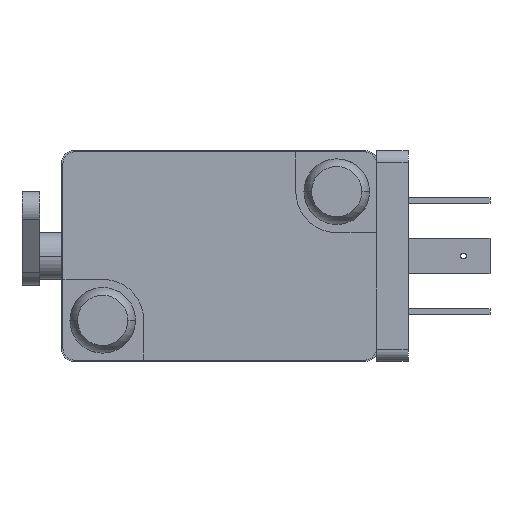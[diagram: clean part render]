
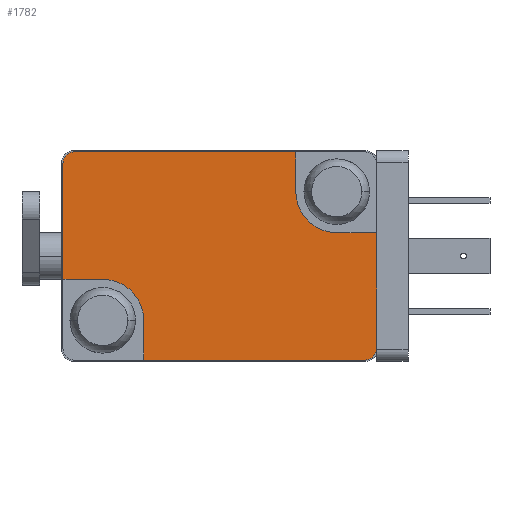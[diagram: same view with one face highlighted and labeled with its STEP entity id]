
A CAD part, left-side view. The second image highlights one B-rep face of the part: STEP entity #1782.
In plain terms, the highlighted planar face has unit normal (-1, 0, 0).
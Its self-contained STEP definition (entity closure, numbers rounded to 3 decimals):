
#56 = CARTESIAN_POINT ( 'NONE',  ( -51.5, 38., -21. ) ) ;
#86 = AXIS2_PLACEMENT_3D ( 'NONE', #1937, #2416, #3756 ) ;
#100 = VECTOR ( 'NONE', #4903, 1000. ) ;
#109 = CARTESIAN_POINT ( 'NONE',  ( -51.5, 38., -21. ) ) ;
#133 = EDGE_CURVE ( 'NONE', #1468, #3009, #282, .T. ) ;
#244 = CARTESIAN_POINT ( 'NONE',  ( -51.5, 34.5, -27.9 ) ) ;
#254 = CIRCLE ( 'NONE', #827, 1. ) ;
#282 = LINE ( 'NONE', #2499, #5292 ) ;
#507 = ORIENTED_EDGE ( 'NONE', *, *, #133, .T. ) ;
#532 = ORIENTED_EDGE ( 'NONE', *, *, #620, .F. ) ;
#533 = FACE_OUTER_BOUND ( 'NONE', #5463, .T. ) ;
#620 = EDGE_CURVE ( 'NONE', #1977, #3009, #2131, .T. ) ;
#715 = CARTESIAN_POINT ( 'NONE',  ( -51.5, 41.4, -21. ) ) ;
#744 = DIRECTION ( 'NONE',  ( -1., 0., 0. ) ) ;
#827 = AXIS2_PLACEMENT_3D ( 'NONE', #2145, #744, #1697 ) ;
#856 = VECTOR ( 'NONE', #5576, 1000. ) ;
#995 = CARTESIAN_POINT ( 'NONE',  ( -51.5, 40.4, -27.9 ) ) ;
#1040 = ORIENTED_EDGE ( 'NONE', *, *, #5035, .F. ) ;
#1207 = DIRECTION ( 'NONE',  ( 0., 0., -1. ) ) ;
#1301 = CIRCLE ( 'NONE', #4636, 3.5 ) ;
#1417 = LINE ( 'NONE', #4674, #1920 ) ;
#1429 = CARTESIAN_POINT ( 'NONE',  ( -51.5, 40.4, -10.1 ) ) ;
#1468 = VERTEX_POINT ( 'NONE', #3854 ) ;
#1626 = CIRCLE ( 'NONE', #3521, 3.5 ) ;
#1696 = CARTESIAN_POINT ( 'NONE',  ( -51.5, 14.6, -17. ) ) ;
#1697 = DIRECTION ( 'NONE',  ( 0., 0., 1. ) ) ;
#1772 = CARTESIAN_POINT ( 'NONE',  ( -51.5, 18., -13.5 ) ) ;
#1782 = ADVANCED_FACE ( 'NONE', ( #533 ), #5555, .T. ) ;
#1793 = CARTESIAN_POINT ( 'NONE',  ( -51.5, 38., -24.5 ) ) ;
#1884 = ORIENTED_EDGE ( 'NONE', *, *, #2539, .F. ) ;
#1920 = VECTOR ( 'NONE', #4610, 1000. ) ;
#1924 = DIRECTION ( 'NONE',  ( 0., -1., 0. ) ) ;
#1937 = CARTESIAN_POINT ( 'NONE',  ( -51.5, 40.4, -26.9 ) ) ;
#1939 = DIRECTION ( 'NONE',  ( 0., 0., 1. ) ) ;
#1977 = VERTEX_POINT ( 'NONE', #3544 ) ;
#2026 = CARTESIAN_POINT ( 'NONE',  ( -51.5, 41.4, -11.1 ) ) ;
#2048 = DIRECTION ( 'NONE',  ( 0., 0., 1. ) ) ;
#2131 = LINE ( 'NONE', #4933, #100 ) ;
#2145 = CARTESIAN_POINT ( 'NONE',  ( -51.5, 15.6, -26.9 ) ) ;
#2151 = CARTESIAN_POINT ( 'NONE',  ( -51.5, 15.6, -10.1 ) ) ;
#2188 = CIRCLE ( 'NONE', #5523, 1. ) ;
#2197 = VECTOR ( 'NONE', #1207, 1000. ) ;
#2259 = LINE ( 'NONE', #2674, #5401 ) ;
#2307 = ORIENTED_EDGE ( 'NONE', *, *, #2452, .T. ) ;
#2378 = LINE ( 'NONE', #109, #856 ) ;
#2416 = DIRECTION ( 'NONE',  ( -1., 0., 0. ) ) ;
#2452 = EDGE_CURVE ( 'NONE', #5393, #3954, #4130, .T. ) ;
#2499 = CARTESIAN_POINT ( 'NONE',  ( -51.5, 14.6, -26.9 ) ) ;
#2539 = EDGE_CURVE ( 'NONE', #3471, #3459, #1417, .T. ) ;
#2631 = CARTESIAN_POINT ( 'NONE',  ( -51.5, 21.5, -10.1 ) ) ;
#2674 = CARTESIAN_POINT ( 'NONE',  ( -51.5, 34.5, -28. ) ) ;
#2684 = CARTESIAN_POINT ( 'NONE',  ( -51.5, 15.6, -27.9 ) ) ;
#2825 = CARTESIAN_POINT ( 'NONE',  ( -51.5, 40.4, -11.1 ) ) ;
#2983 = VERTEX_POINT ( 'NONE', #715 ) ;
#3009 = VERTEX_POINT ( 'NONE', #1696 ) ;
#3052 = CARTESIAN_POINT ( 'NONE',  ( -51.5, 21.5, -13.5 ) ) ;
#3091 = ORIENTED_EDGE ( 'NONE', *, *, #5809, .T. ) ;
#3260 = VERTEX_POINT ( 'NONE', #4250 ) ;
#3459 = VERTEX_POINT ( 'NONE', #3052 ) ;
#3471 = VERTEX_POINT ( 'NONE', #2631 ) ;
#3521 = AXIS2_PLACEMENT_3D ( 'NONE', #1772, #5412, #4969 ) ;
#3544 = CARTESIAN_POINT ( 'NONE',  ( -51.5, 18., -17. ) ) ;
#3590 = EDGE_CURVE ( 'NONE', #3260, #5590, #1301, .T. ) ;
#3733 = ORIENTED_EDGE ( 'NONE', *, *, #3590, .F. ) ;
#3756 = DIRECTION ( 'NONE',  ( 0., 0., 1. ) ) ;
#3776 = EDGE_CURVE ( 'NONE', #3471, #3922, #4925, .T. ) ;
#3854 = CARTESIAN_POINT ( 'NONE',  ( -51.5, 14.6, -26.9 ) ) ;
#3885 = ORIENTED_EDGE ( 'NONE', *, *, #5126, .F. ) ;
#3922 = VERTEX_POINT ( 'NONE', #1429 ) ;
#3954 = VERTEX_POINT ( 'NONE', #2684 ) ;
#4059 = VERTEX_POINT ( 'NONE', #2026 ) ;
#4117 = ORIENTED_EDGE ( 'NONE', *, *, #4361, .F. ) ;
#4129 = ORIENTED_EDGE ( 'NONE', *, *, #3776, .T. ) ;
#4130 = LINE ( 'NONE', #995, #5747 ) ;
#4179 = DIRECTION ( 'NONE',  ( 0., 0., 1. ) ) ;
#4216 = EDGE_CURVE ( 'NONE', #3954, #1468, #254, .T. ) ;
#4250 = CARTESIAN_POINT ( 'NONE',  ( -51.5, 34.5, -24.5 ) ) ;
#4361 = EDGE_CURVE ( 'NONE', #5393, #3260, #2259, .T. ) ;
#4362 = DIRECTION ( 'NONE',  ( 0., 1., 0. ) ) ;
#4454 = LINE ( 'NONE', #5296, #2197 ) ;
#4610 = DIRECTION ( 'NONE',  ( 0., 0., -1. ) ) ;
#4636 = AXIS2_PLACEMENT_3D ( 'NONE', #1793, #5527, #4179 ) ;
#4656 = DIRECTION ( 'NONE',  ( -1., 0., 0. ) ) ;
#4674 = CARTESIAN_POINT ( 'NONE',  ( -51.5, 21.5, -10. ) ) ;
#4826 = ORIENTED_EDGE ( 'NONE', *, *, #4216, .T. ) ;
#4903 = DIRECTION ( 'NONE',  ( 0., -1., 0. ) ) ;
#4925 = LINE ( 'NONE', #2151, #5497 ) ;
#4933 = CARTESIAN_POINT ( 'NONE',  ( -51.5, 18., -17. ) ) ;
#4969 = DIRECTION ( 'NONE',  ( 0., 0., 1. ) ) ;
#5035 = EDGE_CURVE ( 'NONE', #5590, #2983, #2378, .T. ) ;
#5126 = EDGE_CURVE ( 'NONE', #3459, #1977, #1626, .T. ) ;
#5292 = VECTOR ( 'NONE', #2048, 1000. ) ;
#5296 = CARTESIAN_POINT ( 'NONE',  ( -51.5, 41.4, -11.1 ) ) ;
#5393 = VERTEX_POINT ( 'NONE', #244 ) ;
#5401 = VECTOR ( 'NONE', #5903, 1000. ) ;
#5412 = DIRECTION ( 'NONE',  ( -1., 0., 0. ) ) ;
#5463 = EDGE_LOOP ( 'NONE', ( #3733, #4117, #2307, #4826, #507, #532, #3885, #1884, #4129, #3091, #5865, #1040 ) ) ;
#5497 = VECTOR ( 'NONE', #4362, 1000. ) ;
#5523 = AXIS2_PLACEMENT_3D ( 'NONE', #2825, #4656, #1939 ) ;
#5527 = DIRECTION ( 'NONE',  ( -1., 0., 0. ) ) ;
#5548 = EDGE_CURVE ( 'NONE', #4059, #2983, #4454, .T. ) ;
#5555 = PLANE ( 'NONE',  #86 ) ;
#5576 = DIRECTION ( 'NONE',  ( 0., 1., 0. ) ) ;
#5590 = VERTEX_POINT ( 'NONE', #56 ) ;
#5747 = VECTOR ( 'NONE', #1924, 1000. ) ;
#5809 = EDGE_CURVE ( 'NONE', #3922, #4059, #2188, .T. ) ;
#5865 = ORIENTED_EDGE ( 'NONE', *, *, #5548, .T. ) ;
#5903 = DIRECTION ( 'NONE',  ( 0., 0., 1. ) ) ;
